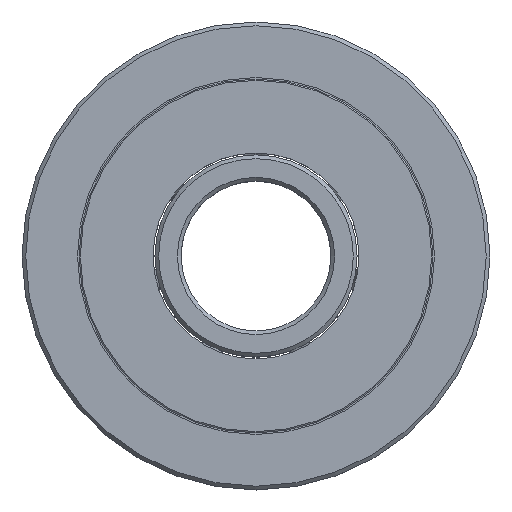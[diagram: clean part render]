
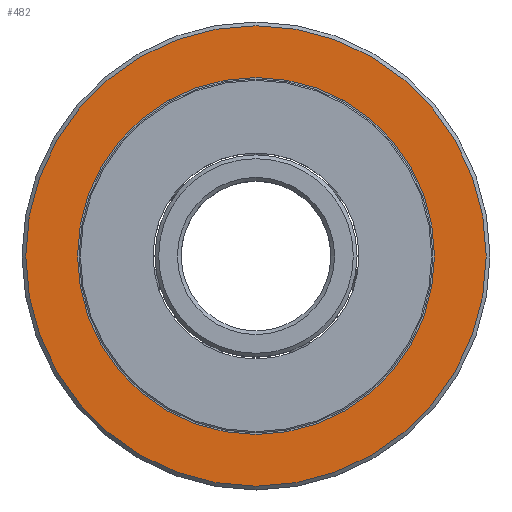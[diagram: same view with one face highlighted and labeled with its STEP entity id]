
A CAD part, top view. The second image highlights one B-rep face of the part: STEP entity #482.
In plain terms, the highlighted planar face has unit normal (0, 0, 1).
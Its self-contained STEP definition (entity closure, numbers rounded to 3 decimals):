
#482=ADVANCED_FACE('',(#859,#861),#863,.T.);
#859=FACE_BOUND('',#860,.T.);
#860=EDGE_LOOP('',(#1056,#1057));
#861=FACE_BOUND('',#862,.T.);
#862=EDGE_LOOP('',(#1058,#1059));
#863=PLANE('',#864);
#864=AXIS2_PLACEMENT_3D('',#865,#866,#867);
#865=CARTESIAN_POINT('',(0.,10.8,3.5));
#866=DIRECTION('',(0.,0.,1.));
#867=DIRECTION('',(1.,0.,0.));
#1056=ORIENTED_EDGE('',*,*,#1146,.F.);
#1057=ORIENTED_EDGE('',*,*,#1147,.F.);
#1058=ORIENTED_EDGE('',*,*,#1142,.T.);
#1059=ORIENTED_EDGE('',*,*,#1143,.T.);
#1142=EDGE_CURVE('',#1268,#1269,#1270,.T.);
#1143=EDGE_CURVE('',#1269,#1268,#1271,.T.);
#1146=EDGE_CURVE('',#1276,#1277,#1278,.T.);
#1147=EDGE_CURVE('',#1277,#1276,#1279,.T.);
#1268=VERTEX_POINT('',#1570);
#1269=VERTEX_POINT('',#1571);
#1270=CIRCLE('',#1572,9.535);
#1271=CIRCLE('',#1576,9.535);
#1276=VERTEX_POINT('',#1590);
#1277=VERTEX_POINT('',#1591);
#1278=CIRCLE('',#1592,12.3);
#1279=CIRCLE('',#1596,12.3);
#1570=CARTESIAN_POINT('',(-9.535,0.,3.5));
#1571=CARTESIAN_POINT('',(9.535,0.,3.5));
#1572=AXIS2_PLACEMENT_3D('',#1573,#1574,#1575);
#1573=CARTESIAN_POINT('',(0.,0.,3.5));
#1574=DIRECTION('',(0.,0.,-1.));
#1575=DIRECTION('',(-1.,0.,0.));
#1576=AXIS2_PLACEMENT_3D('',#1577,#1578,#1579);
#1577=CARTESIAN_POINT('',(0.,0.,3.5));
#1578=DIRECTION('',(0.,0.,-1.));
#1579=DIRECTION('',(1.,0.,0.));
#1590=CARTESIAN_POINT('',(12.3,0.,3.5));
#1591=CARTESIAN_POINT('',(-12.3,0.,3.5));
#1592=AXIS2_PLACEMENT_3D('',#1593,#1594,#1595);
#1593=CARTESIAN_POINT('',(0.,0.,3.5));
#1594=DIRECTION('',(0.,0.,-1.));
#1595=DIRECTION('',(1.,0.,0.));
#1596=AXIS2_PLACEMENT_3D('',#1597,#1598,#1599);
#1597=CARTESIAN_POINT('',(0.,0.,3.5));
#1598=DIRECTION('',(0.,0.,-1.));
#1599=DIRECTION('',(-1.,0.,0.));
